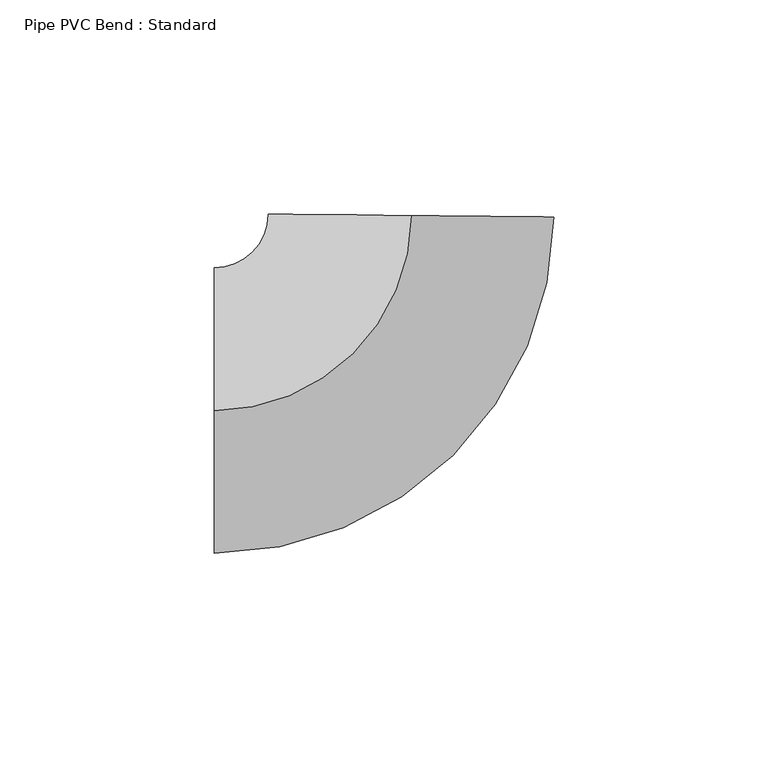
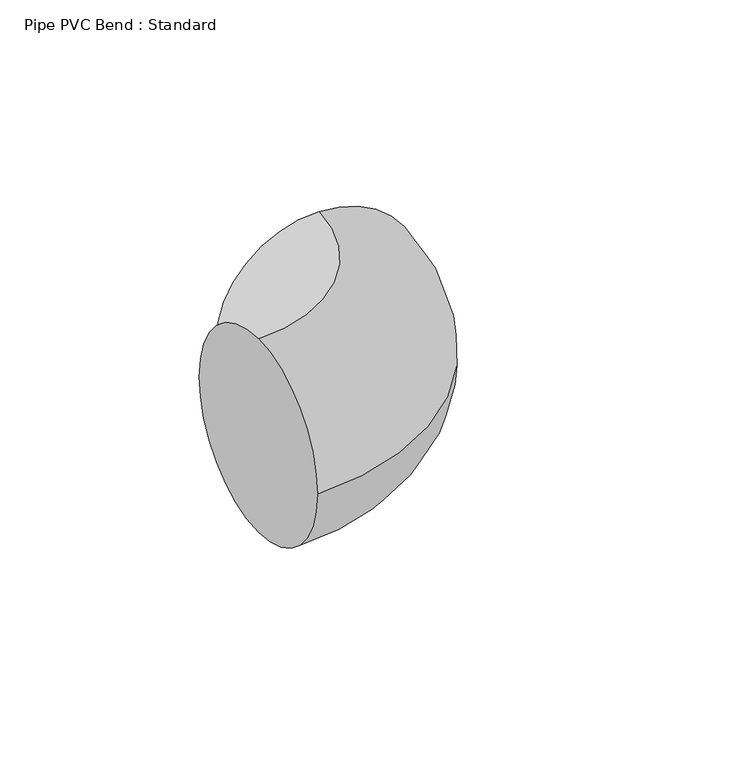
"""IFC4 building model written with IfcOpenShell, lengths in millimetres: pipe fitting geometry, Pipe PVC Bend : Standard."""

from ifc_helpers import new_model, si_unit, point, frame, origin, place, context, project, spatial, circle_curve, ellipse_curve, trimmed, source, transform, mapped, element, save
from ifc_brep_helpers import plane_surface, revolved_surface, advanced_brep


def pipe_pvc_bend_standard_44ef5a01(model_context):
    return source(origin(), model_context, "Body", "AdvancedBrep", [
        advanced_brep(
        [(-45.5653878, 0.0, 33.3375), (-45.5653878, 33.3375, 0.0), (-45.5653878, 0.0, -33.3375), (-45.5653878, -33.3375, 0.0), (0.4696665, 45.5629672, 33.3375), (33.8053955, 45.2193399, 0.0), (0.4696665, 45.5629672, -33.3375), (-32.8660624, 45.9065944, 0.0)],
        [
            (0, 1, circle_curve(frame((-45.5653878, 0.0, 0.0), z_axis=(-1.0, 0.0, 0.0), x_axis=(0.0, 1.0, 0.0)), 33.3375)),
            (1, 2, circle_curve(frame((-45.5653878, 0.0, 0.0), z_axis=(-1.0, 0.0, 0.0), x_axis=(0.0, 1.0, 0.0)), 33.3375)),
            (2, 3, circle_curve(frame((-45.5653878, 0.0, 0.0), z_axis=(-1.0, 0.0, 0.0), x_axis=(0.0, 1.0, 0.0)), 33.3375)),
            (3, 0, circle_curve(frame((-45.5653878, 0.0, 0.0), z_axis=(-1.0, 0.0, 0.0), x_axis=(0.0, 1.0, 0.0)), 33.3375)),
            (4, 5, circle_curve(frame((0.4696665, 45.5629672, 0.0), z_axis=(0.010307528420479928, 0.9999468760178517, 0.0), x_axis=(-0.9999468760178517, 0.010307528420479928, 0.0)), 33.3375)),
            (5, 6, circle_curve(frame((0.4696665, 45.5629672, 0.0), z_axis=(0.010307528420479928, 0.9999468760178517, 0.0), x_axis=(-0.9999468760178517, 0.010307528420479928, 0.0)), 33.3375)),
            (6, 7, circle_curve(frame((0.4696665, 45.5629672, 0.0), z_axis=(0.010307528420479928, 0.9999468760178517, 0.0), x_axis=(-0.9999468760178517, 0.010307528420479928, 0.0)), 33.3375)),
            (7, 4, circle_curve(frame((0.4696665, 45.5629672, 0.0), z_axis=(0.010307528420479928, 0.9999468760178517, 0.0), x_axis=(-0.9999468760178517, 0.010307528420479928, 0.0)), 33.3375)),
            (7, 1, circle_curve(frame((-45.5653878, 46.0375, 0.0), z_axis=(0.0, 0.0, -1.0), x_axis=(0.0, -1.0, 0.0)), 12.7)),
            (0, 4, circle_curve(frame((-45.5653878, 46.0375, 33.3375), z_axis=(0.0, 0.0, 1.0), x_axis=(0.0, -1.0, 0.0)), 46.0375)),
            (6, 2, circle_curve(frame((-45.5653878, 46.0375, -33.3375), z_axis=(0.0, 0.0, -1.0), x_axis=(0.0, -1.0, 0.0)), 46.0375)),
            (5, 3, circle_curve(frame((-45.5653878, 46.0375, 0.0), z_axis=(0.0, 0.0, -1.0), x_axis=(0.0, -1.0, 0.0)), 79.375)),
        ],
        [
            plane_surface(frame((-45.5653878, 0.0, 0.0), z_axis=(-1.0, 0.0, 0.0), x_axis=(0.0, 0.0, 1.0))),
            plane_surface(frame((0.4696665, 45.5629672, 0.0), z_axis=(0.010307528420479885, 0.9999468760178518, 0.0), x_axis=(0.0, 0.0, 1.0))),
            revolved_surface(trimmed(ellipse_curve(frame((-45.5653878, 0.0, 0.0), z_axis=(-1.0, 0.0, 0.0), x_axis=(0.0, 1.0, 0.0)), 33.3375, 33.3375), [point((-45.5653878, 0.0, 33.3375))], [point((-45.5653878, 33.3375, 0.0))], True, "CARTESIAN"), (-45.5653878, 46.0375, 0.0), (0.0, 0.0, 1.0)),
            revolved_surface(trimmed(ellipse_curve(frame((-45.5653878, 0.0, 0.0), z_axis=(-1.0, 0.0, 0.0), x_axis=(0.0, 1.0, 0.0)), 33.3375, 33.3375), [point((-45.5653878, 33.3375, 0.0))], [point((-45.5653878, 0.0, -33.3375))], True, "CARTESIAN"), (-45.5653878, 46.0375, 0.0), (0.0, 0.0, 1.0)),
            revolved_surface(trimmed(ellipse_curve(frame((-45.5653878, 0.0, 0.0), z_axis=(-1.0, 0.0, 0.0), x_axis=(0.0, 1.0, 0.0)), 33.3375, 33.3375), [point((-45.5653878, 0.0, -33.3375))], [point((-45.5653878, -33.3375, 0.0))], True, "CARTESIAN"), (-45.5653878, 46.0375, 0.0), (0.0, 0.0, 1.0)),
            revolved_surface(trimmed(ellipse_curve(frame((-45.5653878, 0.0, 0.0), z_axis=(-1.0, 0.0, 0.0), x_axis=(0.0, 1.0, 0.0)), 33.3375, 33.3375), [point((-45.5653878, -33.3375, 0.0))], [point((-45.5653878, 0.0, 33.3375))], True, "CARTESIAN"), (-45.5653878, 46.0375, 0.0), (0.0, 0.0, 1.0)),
        ],
        [
            (0, [[1, 2, 3, 4]]),
            (1, [[5, 6, 7, 8]]),
            (2, [[9, -1, 10, -8]]),
            (3, [[11, -2, -9, -7]]),
            (4, [[12, -3, -11, -6]]),
            (5, [[-10, -4, -12, -5]]),
        ],
    ),
        advanced_brep(
        [(-45.5653878, 0.0, 33.3375), (-45.5653878, 33.3375, 0.0), (-45.5653878, 0.0, -33.3375), (-45.5653878, -33.3375, 0.0), (0.4696665, 45.5629672, 33.3375), (33.8053955, 45.2193399, 0.0), (0.4696665, 45.5629672, -33.3375), (-32.8660624, 45.9065944, 0.0)],
        [
            (0, 1, circle_curve(frame((-45.5653878, 0.0, 0.0), z_axis=(-1.0, 0.0, 0.0), x_axis=(0.0, 1.0, 0.0)), 33.3375)),
            (1, 2, circle_curve(frame((-45.5653878, 0.0, 0.0), z_axis=(-1.0, 0.0, 0.0), x_axis=(0.0, 1.0, 0.0)), 33.3375)),
            (2, 3, circle_curve(frame((-45.5653878, 0.0, 0.0), z_axis=(-1.0, 0.0, 0.0), x_axis=(0.0, 1.0, 0.0)), 33.3375)),
            (3, 0, circle_curve(frame((-45.5653878, 0.0, 0.0), z_axis=(-1.0, 0.0, 0.0), x_axis=(0.0, 1.0, 0.0)), 33.3375)),
            (4, 5, circle_curve(frame((0.4696665, 45.5629672, 0.0), z_axis=(0.010307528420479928, 0.9999468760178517, 0.0), x_axis=(-0.9999468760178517, 0.010307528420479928, 0.0)), 33.3375)),
            (5, 6, circle_curve(frame((0.4696665, 45.5629672, 0.0), z_axis=(0.010307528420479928, 0.9999468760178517, 0.0), x_axis=(-0.9999468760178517, 0.010307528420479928, 0.0)), 33.3375)),
            (6, 7, circle_curve(frame((0.4696665, 45.5629672, 0.0), z_axis=(0.010307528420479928, 0.9999468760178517, 0.0), x_axis=(-0.9999468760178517, 0.010307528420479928, 0.0)), 33.3375)),
            (7, 4, circle_curve(frame((0.4696665, 45.5629672, 0.0), z_axis=(0.010307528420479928, 0.9999468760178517, 0.0), x_axis=(-0.9999468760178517, 0.010307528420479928, 0.0)), 33.3375)),
            (7, 1, circle_curve(frame((-45.5653878, 46.0375, 0.0), z_axis=(0.0, 0.0, -1.0), x_axis=(0.0, -1.0, 0.0)), 12.7)),
            (0, 4, circle_curve(frame((-45.5653878, 46.0375, 33.3375), z_axis=(0.0, 0.0, 1.0), x_axis=(0.0, -1.0, 0.0)), 46.0375)),
            (6, 2, circle_curve(frame((-45.5653878, 46.0375, -33.3375), z_axis=(0.0, 0.0, -1.0), x_axis=(0.0, -1.0, 0.0)), 46.0375)),
            (5, 3, circle_curve(frame((-45.5653878, 46.0375, 0.0), z_axis=(0.0, 0.0, -1.0), x_axis=(0.0, -1.0, 0.0)), 79.375)),
        ],
        [
            plane_surface(frame((-45.5653878, 0.0, 0.0), z_axis=(-1.0, 0.0, 0.0), x_axis=(0.0, 0.0, 1.0))),
            plane_surface(frame((0.4696665, 45.5629672, 0.0), z_axis=(0.010307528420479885, 0.9999468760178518, 0.0), x_axis=(0.0, 0.0, 1.0))),
            revolved_surface(trimmed(ellipse_curve(frame((-45.5653878, 0.0, 0.0), z_axis=(-1.0, 0.0, 0.0), x_axis=(0.0, 1.0, 0.0)), 33.3375, 33.3375), [point((-45.5653878, 0.0, 33.3375))], [point((-45.5653878, 33.3375, 0.0))], True, "CARTESIAN"), (-45.5653878, 46.0375, 0.0), (0.0, 0.0, 1.0)),
            revolved_surface(trimmed(ellipse_curve(frame((-45.5653878, 0.0, 0.0), z_axis=(-1.0, 0.0, 0.0), x_axis=(0.0, 1.0, 0.0)), 33.3375, 33.3375), [point((-45.5653878, 33.3375, 0.0))], [point((-45.5653878, 0.0, -33.3375))], True, "CARTESIAN"), (-45.5653878, 46.0375, 0.0), (0.0, 0.0, 1.0)),
            revolved_surface(trimmed(ellipse_curve(frame((-45.5653878, 0.0, 0.0), z_axis=(-1.0, 0.0, 0.0), x_axis=(0.0, 1.0, 0.0)), 33.3375, 33.3375), [point((-45.5653878, 0.0, -33.3375))], [point((-45.5653878, -33.3375, 0.0))], True, "CARTESIAN"), (-45.5653878, 46.0375, 0.0), (0.0, 0.0, 1.0)),
            revolved_surface(trimmed(ellipse_curve(frame((-45.5653878, 0.0, 0.0), z_axis=(-1.0, 0.0, 0.0), x_axis=(0.0, 1.0, 0.0)), 33.3375, 33.3375), [point((-45.5653878, -33.3375, 0.0))], [point((-45.5653878, 0.0, 33.3375))], True, "CARTESIAN"), (-45.5653878, 46.0375, 0.0), (0.0, 0.0, 1.0)),
        ],
        [
            (0, [[1, 2, 3, 4]]),
            (1, [[5, 6, 7, 8]]),
            (2, [[9, -1, 10, -8]]),
            (3, [[11, -2, -9, -7]]),
            (4, [[12, -3, -11, -6]]),
            (5, [[-10, -4, -12, -5]]),
        ],
    ),
    ])


if __name__ == "__main__":
    model = new_model("IFC4")
    model_context = context("Model", 3, world=origin())
    ifc_project = project(units=[si_unit("LENGTHUNIT", "METRE", prefix="MILLI")], contexts=[model_context])
    site = spatial("IfcSite", under=ifc_project)
    building = spatial("IfcBuilding", under=site)
    placement = place(None, origin())
    pipe_pvc_bend_standard_shape = pipe_pvc_bend_standard_44ef5a01(model_context)
    element("IfcPipeFitting", 1, ObjectType="Pipe PVC Bend : Standard", at=placement, inside=building, context=model_context, shape_type="MappedRepresentation", body=[
        mapped(pipe_pvc_bend_standard_shape, transform((0.0, 0.0, 0.0), x_axis=(1.0, 0.0, 0.0), y_axis=(0.0, 1.0, 0.0), z_axis=(0.0, 0.0, 1.0))),
    ])
    save(model, "model.ifc")
